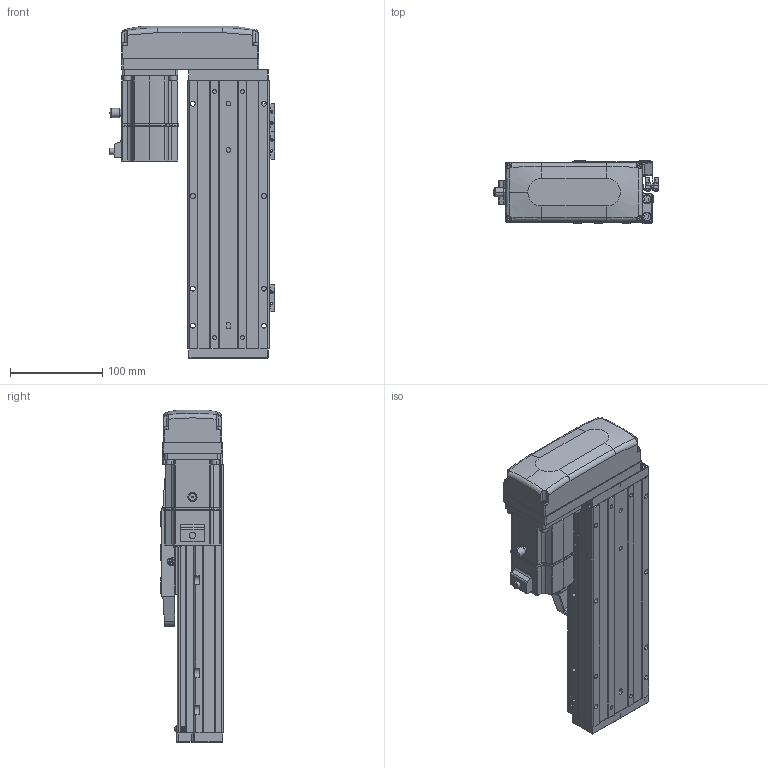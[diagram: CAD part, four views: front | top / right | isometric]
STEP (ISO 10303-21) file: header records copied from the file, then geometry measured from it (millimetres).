
FILE_DESCRIPTION (( 'STEP AP203' ), '1' );
FILE_NAME ('CTHA86-100-BR-M20-C4L.step', '2022-04-26T00:58:20', ( '微软用户' ), ( '微软中国' ), 'SwSTEP 2.0', 'SolidWorks 2020', '' );
FILE_SCHEMA (( 'CONFIG_CONTROL_DESIGN' ));
Length unit declared in the file: millimetre
Products named in the file (21): KTHA86-005; GBT70.1 M5℅16; CTHA86-030; GB¨uT 70.2-M3¡Á5_M3¡Á6; GBT 70.1-M3×16; GBT 70.3-M3℅6; EE_SX911P_R; GBT 70.1-M3℅6; CTHA86-015-1_CTHA86-015-2; CTHA60-017; CTHA60-016; CTHA86-033; CTHA60-021; _X2_4E0983F1_X0_200W_1; CTHA86-100-BR-M20-C4L; KTHA86-001_290; GBT77-2000 M3×3; CTHA86-002; KTHA86-004; GBT 70.1-M3×20; CTHA86-031
Assembly tree (66 placements, depth 2):
  CTHA86-100-BR-M20-C4L
    KTHA86-001_290
    KTHA86-004
    KTHA86-005
    GB¨uT 70.2-M3¡Á5_M3¡Á6  x10
    EE_SX911P_R  x3
    CTHA60-017  x3
    CTHA60-021  x2
    GBT77-2000 M3×3  x6
    GBT 70.1-M3×20
    GBT70.1 M5℅16  x14
    GBT 70.1-M3×16  x5
    GBT 70.1-M3℅6  x6
    CTHA60-016  x2
    _X2_4E0983F1_X0_200W_1
    CTHA86-002
    CTHA86-031
    CTHA86-030  x2
    GBT 70.3-M3℅6  x4
    CTHA86-015-1_CTHA86-015-2
    CTHA86-033
Bounding box: 178.52 x 68 x 359 mm (x, y, z)
Volume: 1897104.1 mm3; surface area: 351028.9 mm2
Topology: 68 solids, 68 shells, 2686 faces, 6372 edges, 3916 vertices
Faces by surface type: plane 1403, cylinder 693, cone 359, torus 132, bspline 75, sphere 24
Entity records: 45851 total; most frequent: CARTESIAN_POINT 8947, DIRECTION 7079, ORIENTED_EDGE 6844, EDGE_CURVE 3422, AXIS2_PLACEMENT_3D 2432, LINE 2215, VECTOR 2215, VERTEX_POINT 2148
